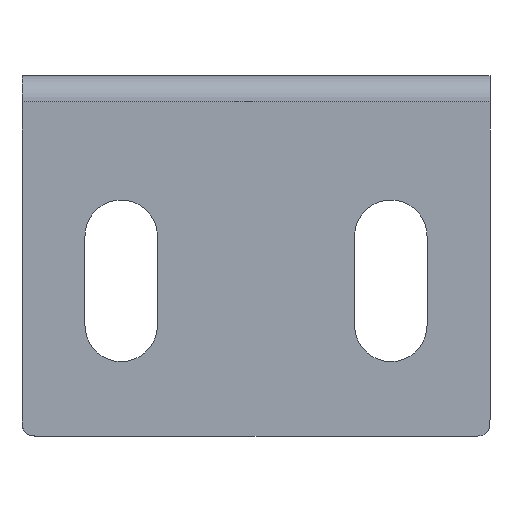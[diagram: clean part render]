
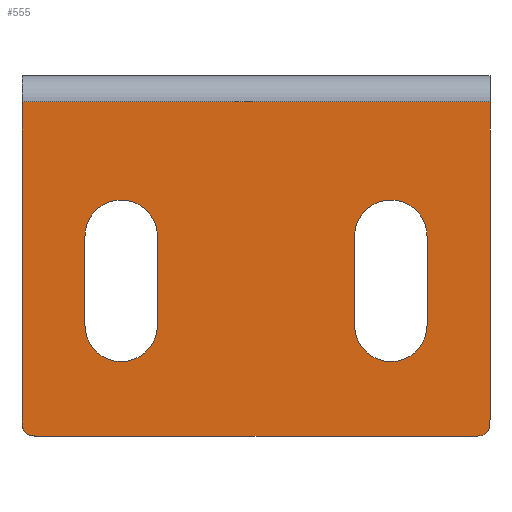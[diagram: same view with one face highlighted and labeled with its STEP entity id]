
A CAD part, left-side view. The second image highlights one B-rep face of the part: STEP entity #555.
In plain terms, the highlighted planar face has unit normal (-1, 0, 0).
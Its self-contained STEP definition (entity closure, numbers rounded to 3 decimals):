
#25=FACE_BOUND('',#210,.T.);
#26=FACE_BOUND('',#211,.T.);
#35=CIRCLE('',#598,3.25);
#36=CIRCLE('',#599,3.25);
#37=CIRCLE('',#600,3.25);
#38=CIRCLE('',#601,3.25);
#55=LINE('',#861,#108);
#57=LINE('',#870,#110);
#58=LINE('',#872,#111);
#59=LINE('',#874,#112);
#60=LINE('',#890,#113);
#61=LINE('',#894,#114);
#62=LINE('',#898,#115);
#63=LINE('',#902,#116);
#108=VECTOR('',#647,10.);
#110=VECTOR('',#651,10.);
#111=VECTOR('',#652,10.);
#112=VECTOR('',#653,10.);
#113=VECTOR('',#654,10.);
#114=VECTOR('',#657,10.);
#115=VECTOR('',#660,10.);
#116=VECTOR('',#663,10.);
#162=PLANE('',#597);
#180=FACE_OUTER_BOUND('',#209,.T.);
#209=EDGE_LOOP('',(#397,#398,#399,#400,#401,#402));
#210=EDGE_LOOP('',(#403,#404,#405,#406));
#211=EDGE_LOOP('',(#407,#408,#409,#410));
#248=B_SPLINE_CURVE_WITH_KNOTS('',3,(#842,#843,#844,#845,#846,#847,#848,
#849,#850,#851,#852,#853,#854),.UNSPECIFIED.,.F.,.F.,(4,3,3,3,4),(0.,0.089,
0.178,0.223,0.312),.UNSPECIFIED.);
#251=B_SPLINE_CURVE_WITH_KNOTS('',3,(#875,#876,#877,#878,#879,#880,#881,
#882,#883,#884,#885,#886,#887),.UNSPECIFIED.,.F.,.F.,(4,3,3,3,4),(0.,0.089,
0.134,0.223,0.312),.UNSPECIFIED.);
#256=VERTEX_POINT('',#836);
#257=VERTEX_POINT('',#841);
#258=VERTEX_POINT('',#860);
#260=VERTEX_POINT('',#869);
#261=VERTEX_POINT('',#871);
#262=VERTEX_POINT('',#873);
#263=VERTEX_POINT('',#888);
#264=VERTEX_POINT('',#889);
#265=VERTEX_POINT('',#891);
#266=VERTEX_POINT('',#893);
#267=VERTEX_POINT('',#896);
#268=VERTEX_POINT('',#897);
#269=VERTEX_POINT('',#899);
#270=VERTEX_POINT('',#901);
#310=EDGE_CURVE('',#256,#257,#248,.T.);
#312=EDGE_CURVE('',#257,#258,#55,.T.);
#315=EDGE_CURVE('',#256,#260,#57,.T.);
#316=EDGE_CURVE('',#260,#261,#58,.T.);
#317=EDGE_CURVE('',#262,#261,#59,.T.);
#318=EDGE_CURVE('',#258,#262,#251,.T.);
#319=EDGE_CURVE('',#263,#264,#60,.T.);
#320=EDGE_CURVE('',#264,#265,#35,.T.);
#321=EDGE_CURVE('',#265,#266,#61,.T.);
#322=EDGE_CURVE('',#266,#263,#36,.T.);
#323=EDGE_CURVE('',#267,#268,#62,.T.);
#324=EDGE_CURVE('',#268,#269,#37,.T.);
#325=EDGE_CURVE('',#269,#270,#63,.T.);
#326=EDGE_CURVE('',#270,#267,#38,.T.);
#397=ORIENTED_EDGE('',*,*,#310,.F.);
#398=ORIENTED_EDGE('',*,*,#315,.T.);
#399=ORIENTED_EDGE('',*,*,#316,.T.);
#400=ORIENTED_EDGE('',*,*,#317,.F.);
#401=ORIENTED_EDGE('',*,*,#318,.F.);
#402=ORIENTED_EDGE('',*,*,#312,.F.);
#403=ORIENTED_EDGE('',*,*,#319,.T.);
#404=ORIENTED_EDGE('',*,*,#320,.T.);
#405=ORIENTED_EDGE('',*,*,#321,.T.);
#406=ORIENTED_EDGE('',*,*,#322,.T.);
#407=ORIENTED_EDGE('',*,*,#323,.T.);
#408=ORIENTED_EDGE('',*,*,#324,.T.);
#409=ORIENTED_EDGE('',*,*,#325,.T.);
#410=ORIENTED_EDGE('',*,*,#326,.T.);
#555=ADVANCED_FACE('',(#180,#25,#26),#162,.T.);
#597=AXIS2_PLACEMENT_3D('',#868,#649,#650);
#598=AXIS2_PLACEMENT_3D('',#892,#655,#656);
#599=AXIS2_PLACEMENT_3D('',#895,#658,#659);
#600=AXIS2_PLACEMENT_3D('',#900,#661,#662);
#601=AXIS2_PLACEMENT_3D('',#903,#664,#665);
#647=DIRECTION('',(0.,1.,0.));
#649=DIRECTION('center_axis',(-1.,0.,0.));
#650=DIRECTION('ref_axis',(0.,0.,1.));
#651=DIRECTION('',(0.,0.,1.));
#652=DIRECTION('',(0.,1.,0.));
#653=DIRECTION('',(0.,0.,1.));
#654=DIRECTION('',(0.,0.,-1.));
#655=DIRECTION('center_axis',(1.,0.,0.));
#656=DIRECTION('ref_axis',(0.,1.,0.));
#657=DIRECTION('',(0.,0.,1.));
#658=DIRECTION('center_axis',(1.,0.,0.));
#659=DIRECTION('ref_axis',(0.,-1.,0.));
#660=DIRECTION('',(0.,0.,-1.));
#661=DIRECTION('center_axis',(1.,0.,0.));
#662=DIRECTION('ref_axis',(0.,1.,0.));
#663=DIRECTION('',(0.,0.,1.));
#664=DIRECTION('center_axis',(1.,0.,0.));
#665=DIRECTION('ref_axis',(0.,-1.,0.));
#836=CARTESIAN_POINT('',(-1.35,0.,-29.5));
#841=CARTESIAN_POINT('',(-1.35,1.5,-31.));
#842=CARTESIAN_POINT('Ctrl Pts',(-1.35,0.,-29.5));
#843=CARTESIAN_POINT('Ctrl Pts',(-1.35,0.,-29.904));
#844=CARTESIAN_POINT('Ctrl Pts',(-1.35,0.038,-30.154));
#845=CARTESIAN_POINT('Ctrl Pts',(-1.35,0.104,-30.346));
#846=CARTESIAN_POINT('Ctrl Pts',(-1.35,0.171,-30.539));
#847=CARTESIAN_POINT('Ctrl Pts',(-1.35,0.265,-30.673));
#848=CARTESIAN_POINT('Ctrl Pts',(-1.35,0.406,-30.772));
#849=CARTESIAN_POINT('Ctrl Pts',(-1.35,0.476,-30.822));
#850=CARTESIAN_POINT('Ctrl Pts',(-1.35,0.558,-30.862));
#851=CARTESIAN_POINT('Ctrl Pts',(-1.35,0.654,-30.896));
#852=CARTESIAN_POINT('Ctrl Pts',(-1.35,0.846,-30.963));
#853=CARTESIAN_POINT('Ctrl Pts',(-1.35,1.096,-31.));
#854=CARTESIAN_POINT('Ctrl Pts',(-1.35,1.5,-31.));
#860=CARTESIAN_POINT('',(-1.35,40.5,-31.));
#861=CARTESIAN_POINT('',(-1.35,0.,-31.));
#868=CARTESIAN_POINT('Origin',(-1.35,0.,-31.));
#869=CARTESIAN_POINT('',(-1.35,0.,-1.));
#870=CARTESIAN_POINT('',(-1.35,0.,-31.));
#871=CARTESIAN_POINT('',(-1.35,42.,-1.));
#872=CARTESIAN_POINT('',(-1.35,0.,-1.));
#873=CARTESIAN_POINT('',(-1.35,42.,-29.5));
#874=CARTESIAN_POINT('',(-1.35,42.,-31.));
#875=CARTESIAN_POINT('Ctrl Pts',(-1.35,40.5,-31.));
#876=CARTESIAN_POINT('Ctrl Pts',(-1.35,40.904,-31.));
#877=CARTESIAN_POINT('Ctrl Pts',(-1.35,41.154,-30.963));
#878=CARTESIAN_POINT('Ctrl Pts',(-1.35,41.347,-30.896));
#879=CARTESIAN_POINT('Ctrl Pts',(-1.35,41.443,-30.863));
#880=CARTESIAN_POINT('Ctrl Pts',(-1.35,41.524,-30.822));
#881=CARTESIAN_POINT('Ctrl Pts',(-1.35,41.595,-30.772));
#882=CARTESIAN_POINT('Ctrl Pts',(-1.35,41.735,-30.673));
#883=CARTESIAN_POINT('Ctrl Pts',(-1.35,41.83,-30.539));
#884=CARTESIAN_POINT('Ctrl Pts',(-1.35,41.896,-30.347));
#885=CARTESIAN_POINT('Ctrl Pts',(-1.35,41.962,-30.154));
#886=CARTESIAN_POINT('Ctrl Pts',(-1.35,42.,-29.904));
#887=CARTESIAN_POINT('Ctrl Pts',(-1.35,42.,-29.5));
#888=CARTESIAN_POINT('',(-1.35,5.65,-13.05));
#889=CARTESIAN_POINT('',(-1.35,5.65,-21.05));
#890=CARTESIAN_POINT('',(-1.35,5.65,-22.025));
#891=CARTESIAN_POINT('',(-1.35,12.15,-21.05));
#892=CARTESIAN_POINT('Origin',(-1.35,8.9,-21.05));
#893=CARTESIAN_POINT('',(-1.35,12.15,-13.05));
#894=CARTESIAN_POINT('',(-1.35,12.15,-26.025));
#895=CARTESIAN_POINT('Origin',(-1.35,8.9,-13.05));
#896=CARTESIAN_POINT('',(-1.35,29.85,-13.05));
#897=CARTESIAN_POINT('',(-1.35,29.85,-21.05));
#898=CARTESIAN_POINT('',(-1.35,29.85,-22.025));
#899=CARTESIAN_POINT('',(-1.35,36.35,-21.05));
#900=CARTESIAN_POINT('Origin',(-1.35,33.1,-21.05));
#901=CARTESIAN_POINT('',(-1.35,36.35,-13.05));
#902=CARTESIAN_POINT('',(-1.35,36.35,-26.025));
#903=CARTESIAN_POINT('Origin',(-1.35,33.1,-13.05));
